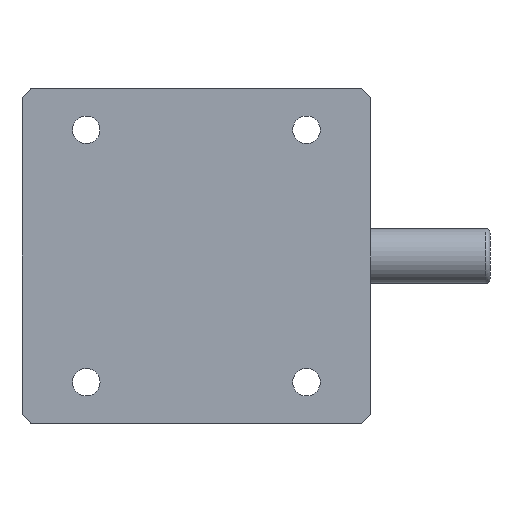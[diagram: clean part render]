
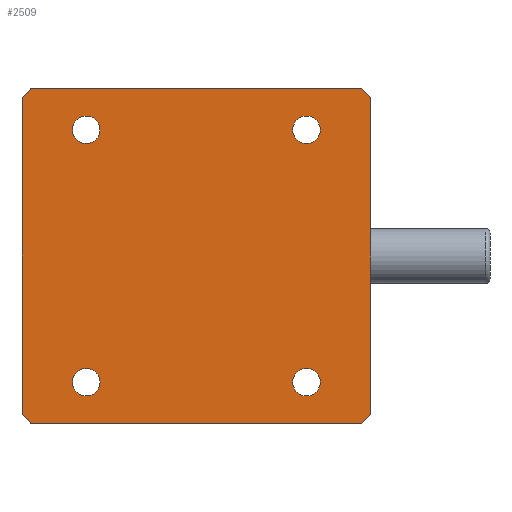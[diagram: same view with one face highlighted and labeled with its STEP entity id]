
A CAD part, front view. The second image highlights one B-rep face of the part: STEP entity #2509.
In plain terms, the highlighted planar face has unit normal (0, -1, 0).
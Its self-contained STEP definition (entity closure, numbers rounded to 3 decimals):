
#32=LINE('',#3743,#164);
#45=LINE('',#3901,#177);
#58=LINE('',#4052,#190);
#69=LINE('',#4195,#201);
#139=LINE('',#5108,#271);
#150=LINE('',#5251,#282);
#153=LINE('',#5265,#285);
#154=LINE('',#5300,#286);
#164=VECTOR('',#2896,1.414);
#177=VECTOR('',#2959,1.414);
#190=VECTOR('',#3018,1.414);
#201=VECTOR('',#3067,1.414);
#271=VECTOR('',#3447,34.5);
#282=VECTOR('',#3504,34.5);
#285=VECTOR('',#3525,36.);
#286=VECTOR('',#3574,36.);
#533=PLANE('',#2821);
#620=FACE_BOUND('',#963,.T.);
#621=FACE_BOUND('',#964,.T.);
#622=FACE_BOUND('',#965,.T.);
#623=FACE_BOUND('',#966,.T.);
#782=FACE_OUTER_BOUND('',#962,.T.);
#962=EDGE_LOOP('',(#2336,#2337,#2338,#2339,#2340,#2341,#2342,#2343));
#963=EDGE_LOOP('',(#2344));
#964=EDGE_LOOP('',(#2345));
#965=EDGE_LOOP('',(#2346));
#966=EDGE_LOOP('',(#2347));
#1035=CIRCLE('',#2800,1.5);
#1037=CIRCLE('',#2804,1.5);
#1039=CIRCLE('',#2808,1.5);
#1041=CIRCLE('',#2812,1.5);
#1068=VERTEX_POINT('',#3740);
#1069=VERTEX_POINT('',#3742);
#1094=VERTEX_POINT('',#3898);
#1095=VERTEX_POINT('',#3900);
#1115=VERTEX_POINT('',#4049);
#1116=VERTEX_POINT('',#4051);
#1134=VERTEX_POINT('',#4192);
#1135=VERTEX_POINT('',#4194);
#1256=VERTEX_POINT('',#5270);
#1258=VERTEX_POINT('',#5276);
#1260=VERTEX_POINT('',#5282);
#1262=VERTEX_POINT('',#5288);
#1298=EDGE_CURVE('',#1068,#1069,#32,.T.);
#1334=EDGE_CURVE('',#1094,#1095,#45,.T.);
#1367=EDGE_CURVE('',#1115,#1116,#58,.T.);
#1396=EDGE_CURVE('',#1134,#1135,#69,.T.);
#1585=EDGE_CURVE('',#1069,#1094,#139,.T.);
#1609=EDGE_CURVE('',#1135,#1115,#150,.T.);
#1614=EDGE_CURVE('',#1095,#1134,#153,.T.);
#1616=EDGE_CURVE('',#1256,#1256,#1035,.T.);
#1618=EDGE_CURVE('',#1258,#1258,#1037,.T.);
#1620=EDGE_CURVE('',#1260,#1260,#1039,.T.);
#1622=EDGE_CURVE('',#1262,#1262,#1041,.T.);
#1625=EDGE_CURVE('',#1116,#1068,#154,.T.);
#2336=ORIENTED_EDGE('',*,*,#1367,.F.);
#2337=ORIENTED_EDGE('',*,*,#1609,.F.);
#2338=ORIENTED_EDGE('',*,*,#1396,.F.);
#2339=ORIENTED_EDGE('',*,*,#1614,.F.);
#2340=ORIENTED_EDGE('',*,*,#1334,.F.);
#2341=ORIENTED_EDGE('',*,*,#1585,.F.);
#2342=ORIENTED_EDGE('',*,*,#1298,.F.);
#2343=ORIENTED_EDGE('',*,*,#1625,.F.);
#2344=ORIENTED_EDGE('',*,*,#1616,.T.);
#2345=ORIENTED_EDGE('',*,*,#1618,.T.);
#2346=ORIENTED_EDGE('',*,*,#1620,.T.);
#2347=ORIENTED_EDGE('',*,*,#1622,.T.);
#2509=ADVANCED_FACE('',(#782,#620,#621,#622,#623),#533,.F.);
#2800=AXIS2_PLACEMENT_3D('',#5271,#3532,#3533);
#2804=AXIS2_PLACEMENT_3D('',#5277,#3540,#3541);
#2808=AXIS2_PLACEMENT_3D('',#5283,#3548,#3549);
#2812=AXIS2_PLACEMENT_3D('',#5289,#3556,#3557);
#2821=AXIS2_PLACEMENT_3D('',#5301,#3575,#3576);
#2896=DIRECTION('',(-0.707,0.,0.707));
#2959=DIRECTION('',(0.707,0.,0.707));
#3018=DIRECTION('',(-0.707,0.,-0.707));
#3067=DIRECTION('',(0.707,0.,-0.707));
#3447=DIRECTION('',(0.,0.,1.));
#3504=DIRECTION('',(0.,0.,-1.));
#3525=DIRECTION('',(1.,0.,0.));
#3532=DIRECTION('center_axis',(0.,1.,0.));
#3533=DIRECTION('ref_axis',(1.,0.,0.));
#3540=DIRECTION('center_axis',(0.,1.,0.));
#3541=DIRECTION('ref_axis',(1.,0.,0.));
#3548=DIRECTION('center_axis',(0.,1.,0.));
#3549=DIRECTION('ref_axis',(1.,0.,0.));
#3556=DIRECTION('center_axis',(0.,1.,0.));
#3557=DIRECTION('ref_axis',(1.,0.,0.));
#3574=DIRECTION('',(-1.,0.,0.));
#3575=DIRECTION('center_axis',(0.,1.,0.));
#3576=DIRECTION('ref_axis',(0.,0.,1.));
#3740=CARTESIAN_POINT('',(-37.,0.,0.));
#3742=CARTESIAN_POINT('',(-38.,0.,1.));
#3743=CARTESIAN_POINT('',(-37.313,0.,0.312));
#3898=CARTESIAN_POINT('',(-38.,0.,35.5));
#3900=CARTESIAN_POINT('',(-37.,0.,36.5));
#3901=CARTESIAN_POINT('',(-37.313,0.,36.188));
#4049=CARTESIAN_POINT('',(0.,0.,1.));
#4051=CARTESIAN_POINT('',(-1.,0.,0.));
#4052=CARTESIAN_POINT('',(-0.687,0.,0.313));
#4192=CARTESIAN_POINT('',(-1.,0.,36.5));
#4194=CARTESIAN_POINT('',(0.,0.,35.5));
#4195=CARTESIAN_POINT('',(-0.688,0.,36.188));
#5108=CARTESIAN_POINT('',(-38.,0.,0.));
#5251=CARTESIAN_POINT('',(0.,0.,36.5));
#5265=CARTESIAN_POINT('',(-38.,0.,36.5));
#5270=CARTESIAN_POINT('',(-8.5,0.,32.));
#5271=CARTESIAN_POINT('Origin',(-7.,0.,32.));
#5276=CARTESIAN_POINT('',(-32.5,0.,4.5));
#5277=CARTESIAN_POINT('Origin',(-31.,0.,4.5));
#5282=CARTESIAN_POINT('',(-32.5,0.,32.));
#5283=CARTESIAN_POINT('Origin',(-31.,0.,32.));
#5288=CARTESIAN_POINT('',(-8.5,0.,4.5));
#5289=CARTESIAN_POINT('Origin',(-7.,0.,4.5));
#5300=CARTESIAN_POINT('',(0.,0.,0.));
#5301=CARTESIAN_POINT('Origin',(-19.,0.,18.25));
